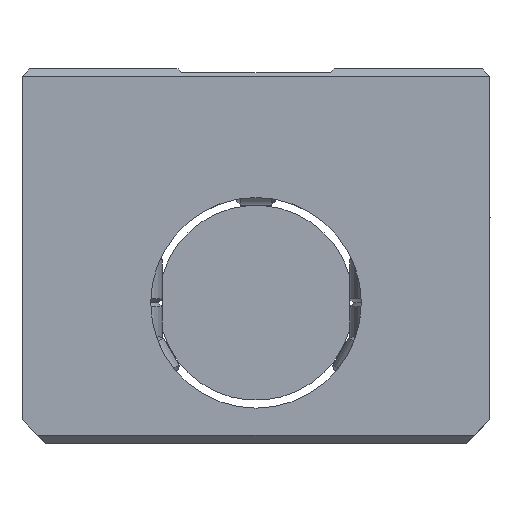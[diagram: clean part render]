
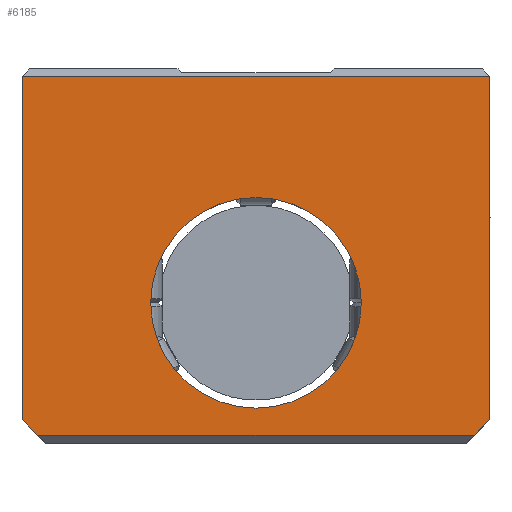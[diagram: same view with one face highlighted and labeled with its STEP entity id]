
A CAD part, left-side view. The second image highlights one B-rep face of the part: STEP entity #6185.
In plain terms, the highlighted planar face has unit normal (-1, 0, 0).
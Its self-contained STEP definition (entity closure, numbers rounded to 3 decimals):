
#5248=CARTESIAN_POINT('',(195.145,-30.0,29.));
#5249=VERTEX_POINT('',#5248);
#5258=CARTESIAN_POINT('',(195.145,-30.0,-15.));
#5259=VERTEX_POINT('',#5258);
#5260=CARTESIAN_POINT('',(195.145,-30.0,29.));
#5261=DIRECTION('',(0.0,0.0,-1.0));
#5262=VECTOR('',#5261,44.0);
#5263=LINE('',#5260,#5262);
#5264=EDGE_CURVE('',#5249,#5259,#5263,.T.);
#5972=CARTESIAN_POINT('',(195.145,30.0,29.));
#5973=VERTEX_POINT('',#5972);
#5980=CARTESIAN_POINT('',(195.145,30.0,29.));
#5981=DIRECTION('',(0.0,-1.0,0.0));
#5982=VECTOR('',#5981,60.0);
#5983=LINE('',#5980,#5982);
#5984=EDGE_CURVE('',#5973,#5249,#5983,.T.);
#6107=CARTESIAN_POINT('',(195.145,-28.,-17.));
#6108=VERTEX_POINT('',#6107);
#6109=CARTESIAN_POINT('',(195.145,-30.0,-15.));
#6110=DIRECTION('',(0.0,0.707,-0.707));
#6111=VECTOR('',#6110,2.828);
#6112=LINE('',#6109,#6111);
#6113=EDGE_CURVE('',#5259,#6108,#6112,.T.);
#6130=CARTESIAN_POINT('',(195.145,28.,-17.));
#6131=VERTEX_POINT('',#6130);
#6140=CARTESIAN_POINT('',(195.145,-28.,-17.));
#6141=DIRECTION('',(0.0,1.0,0.0));
#6142=VECTOR('',#6141,56.);
#6143=LINE('',#6140,#6142);
#6144=EDGE_CURVE('',#6108,#6131,#6143,.T.);
#6149=CARTESIAN_POINT('',(195.145,-20.,29.75));
#6150=DIRECTION('',(1.0,0.0,0.0));
#6151=DIRECTION('',(0.0,0.0,-1.0));
#6152=AXIS2_PLACEMENT_3D('',#6149,#6150,#6151);
#6153=PLANE('',#6152);
#6154=ORIENTED_EDGE('',*,*,#6144,.F.);
#6155=ORIENTED_EDGE('',*,*,#6113,.F.);
#6156=ORIENTED_EDGE('',*,*,#5264,.F.);
#6157=ORIENTED_EDGE('',*,*,#5984,.F.);
#6158=CARTESIAN_POINT('',(195.145,30.0,-15.));
#6159=VERTEX_POINT('',#6158);
#6160=CARTESIAN_POINT('',(195.145,30.0,-15.));
#6161=DIRECTION('',(0.0,0.0,1.0));
#6162=VECTOR('',#6161,44.0);
#6163=LINE('',#6160,#6162);
#6164=EDGE_CURVE('',#6159,#5973,#6163,.T.);
#6165=ORIENTED_EDGE('',*,*,#6164,.F.);
#6166=CARTESIAN_POINT('',(195.145,28.,-17.));
#6167=DIRECTION('',(0.0,0.707,0.707));
#6168=VECTOR('',#6167,2.828);
#6169=LINE('',#6166,#6168);
#6170=EDGE_CURVE('',#6131,#6159,#6169,.T.);
#6171=ORIENTED_EDGE('',*,*,#6170,.F.);
#6172=EDGE_LOOP('',(#6154,#6155,#6156,#6157,#6165,#6171));
#6173=FACE_OUTER_BOUND('',#6172,.T.);
#6174=CARTESIAN_POINT('',(195.145,13.5,0.));
#6175=VERTEX_POINT('',#6174);
#6176=CARTESIAN_POINT('',(195.145,0.0,0.0));
#6177=DIRECTION('',(1.0,0.0,0.0));
#6178=DIRECTION('',(0.0,-1.0,0.0));
#6179=AXIS2_PLACEMENT_3D('',#6176,#6177,#6178);
#6180=CIRCLE('',#6179,13.5);
#6181=EDGE_CURVE('',#6175,#6175,#6180,.T.);
#6182=ORIENTED_EDGE('',*,*,#6181,.T.);
#6183=EDGE_LOOP('',(#6182));
#6184=FACE_BOUND('',#6183,.T.);
#6185=ADVANCED_FACE('',(#6173,#6184),#6153,.F.);
